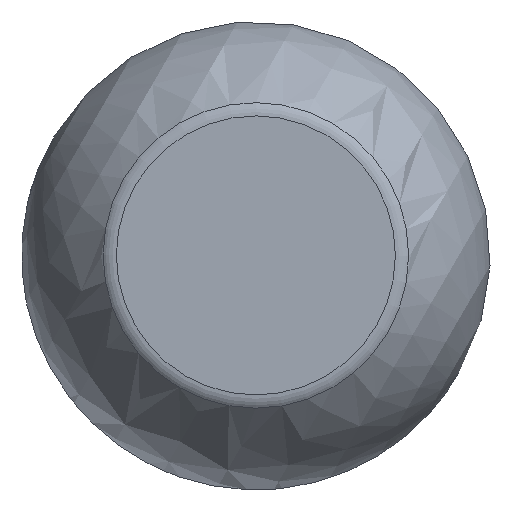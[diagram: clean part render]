
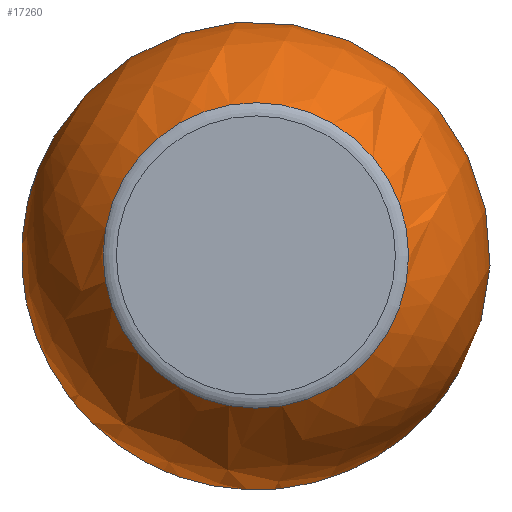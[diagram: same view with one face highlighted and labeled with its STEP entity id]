
A CAD part, top view. The second image highlights one B-rep face of the part: STEP entity #17260.
In plain terms, the highlighted spherical face has radius 18.326 mm.
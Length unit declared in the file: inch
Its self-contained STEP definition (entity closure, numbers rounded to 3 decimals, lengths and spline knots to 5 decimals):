
#73=SPHERICAL_SURFACE('',#18288,0.7215);
#243=FACE_BOUND('',#3035,.T.);
#244=FACE_BOUND('',#3036,.T.);
#3035=EDGE_LOOP('',(#15635));
#3036=EDGE_LOOP('',(#15636));
#4438=CIRCLE('',#18287,0.47012);
#4439=CIRCLE('',#18289,0.40377);
#8436=VERTEX_POINT('',#39173);
#8437=VERTEX_POINT('',#39176);
#10873=EDGE_CURVE('',#8436,#8436,#4438,.T.);
#10874=EDGE_CURVE('',#8437,#8437,#4439,.T.);
#15635=ORIENTED_EDGE('',*,*,#10873,.T.);
#15636=ORIENTED_EDGE('',*,*,#10874,.F.);
#17260=ADVANCED_FACE('',(#243,#244),#73,.T.);
#18287=AXIS2_PLACEMENT_3D('',#39174,#21238,#21239);
#18288=AXIS2_PLACEMENT_3D('',#39175,#21240,#21241);
#18289=AXIS2_PLACEMENT_3D('',#39177,#21242,#21243);
#21238=DIRECTION('center_axis',(1.,0.,0.));
#21239=DIRECTION('ref_axis',(0.,0.,-1.));
#21240=DIRECTION('center_axis',(0.,0.,1.));
#21241=DIRECTION('ref_axis',(1.,0.,0.));
#21242=DIRECTION('center_axis',(1.,0.,0.));
#21243=DIRECTION('ref_axis',(0.,0.,-1.));
#39173=CARTESIAN_POINT('',(0.01509,0.47012,0.));
#39174=CARTESIAN_POINT('Origin',(0.01509,0.,0.));
#39175=CARTESIAN_POINT('Origin',(0.5624,0.,0.));
#39176=CARTESIAN_POINT('',(1.16034,0.40377,0.));
#39177=CARTESIAN_POINT('Origin',(1.16034,0.,0.));
